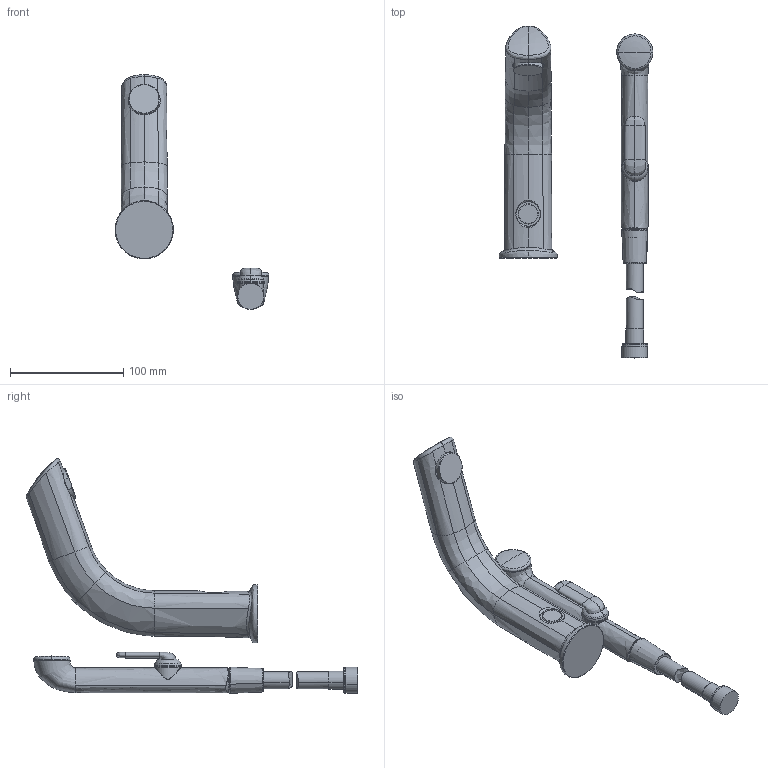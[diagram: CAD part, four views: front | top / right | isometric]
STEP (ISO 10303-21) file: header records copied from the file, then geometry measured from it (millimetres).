
FILE_DESCRIPTION (( 'STEP AP203' ), '1' );
FILE_NAME ('6205.STEP', '2018-07-11T10:03:56', ( '' ), ( '' ), 'SwSTEP 2.0', 'SolidWorks 2016', '' );
FILE_SCHEMA (( 'CONFIG_CONTROL_DESIGN' ));
Length unit declared in the file: millimetre
Products named in the file (1): 6205
Bounding box: 135.97 x 293.23 x 207.6 mm (x, y, z)
Volume: 462879.9 mm3; surface area: 69060.2 mm2
Topology: 8 solids, 8 shells, 154 faces, 357 edges, 224 vertices
Faces by surface type: bspline 59, cylinder 32, plane 27, torus 20, cone 16
Entity records: 14499 total; most frequent: CARTESIAN_POINT 11478, ORIENTED_EDGE 710, DIRECTION 480, EDGE_CURVE 355, VERTEX_POINT 224, AXIS2_PLACEMENT_3D 210, EDGE_LOOP 161, FACE_OUTER_BOUND 154
